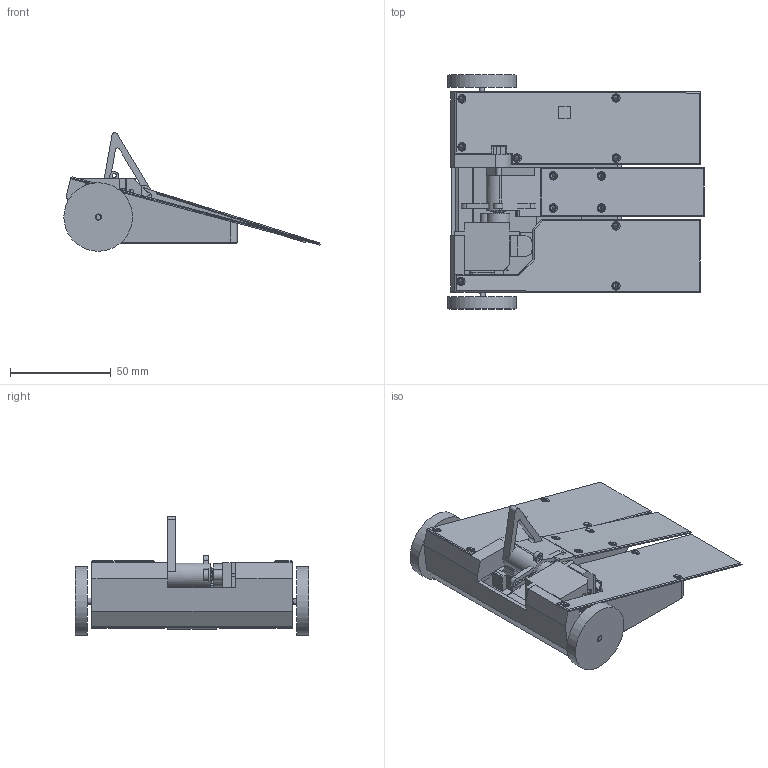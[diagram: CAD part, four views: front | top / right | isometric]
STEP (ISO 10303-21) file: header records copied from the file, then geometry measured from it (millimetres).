
FILE_DESCRIPTION(/* description */ (''),/* implementation_level */ '2;1');
FILE_NAME(/* name */ 'RPR Peppadew.step',/* time_stamp */ '2023-08-28T11:14:22+02:00',/* author */ (''),/* organization */ (''),/* preprocessor_version */ 'ST-DEVELOPER v20',/* originating_system */ 'Autodesk Translation Framework v12.9.0.99',/* authorisation */ '');
FILE_SCHEMA (('AUTOMOTIVE_DESIGN { 1 0 10303 214 3 1 1 }'));
Products named in the file (16): servo flipper v2; n20 drive pod v4; low detail n20 v1; n20 drive pod v4 (1); low detail n20 v1 (1); Servo v9 v1; Servo; Shaft; Horn; Flysky FS-iA6 Receiver; RPR 2A5V Booster; Flysky FS-iA6 Receiver_1; Flysky FS-iA6 Receiver Body; 3x7 Header; Component15; Component16
Assembly tree (17 placements, depth 4):
  servo flipper v2
    n20 drive pod v4
      low detail n20 v1
    n20 drive pod v4 (1)
      low detail n20 v1 (1)
    Servo v9 v1
      Servo
        Shaft
        Horn
    Flysky FS-iA6 Receiver
      Flysky FS-iA6 Receiver Body
      3x7 Header
    RPR 2A5V Booster
    Flysky FS-iA6 Receiver_1
      Flysky FS-iA6 Receiver Body
      3x7 Header
    Component15
    Component16
Bounding box: 127.03 x 116 x 58.8 mm (x, y, z)
Volume: 111802.9 mm3; surface area: 84596.6 mm2
Topology: 22 solids, 23 shells, 3203 faces, 8320 edges, 5313 vertices
Faces by surface type: plane 1915, bspline 902, cylinder 344, sphere 28, cone 14
Full cylindrical faces by diameter (mm): 0.75 x6, 1 x8, 1.152 x4, 1.6 x12, 2 x24, 2.5 x14, 3 x4, 3.2 x13, 4 x2, 7.7 x1, 34 x2
Entity records: 136217 total; most frequent: CARTESIAN_POINT 75655, ORIENTED_EDGE 14058, DIRECTION 9395, EDGE_CURVE 7029, VERTEX_POINT 4519, LINE 4511, VECTOR 4511, EDGE_LOOP 2946
